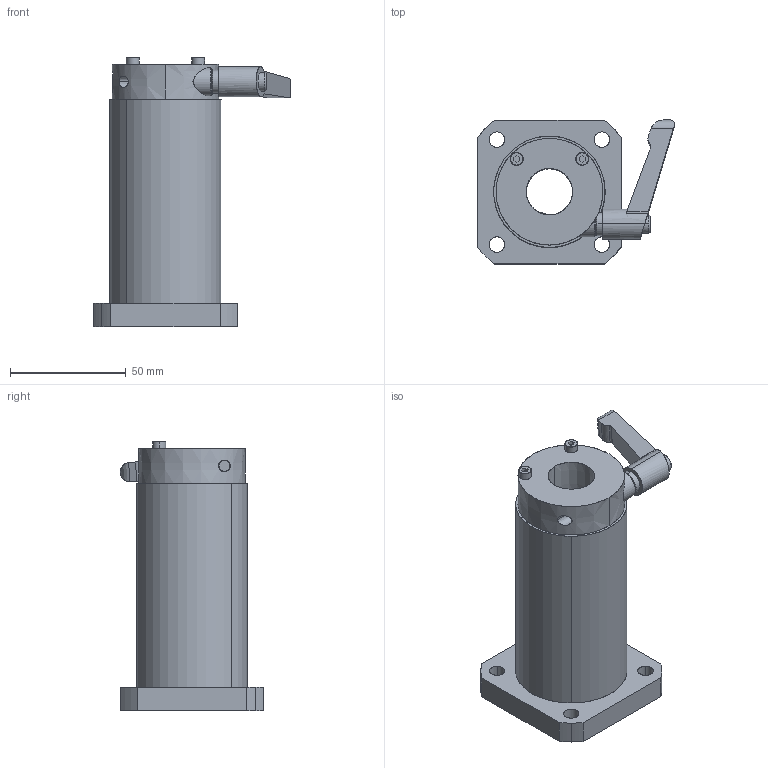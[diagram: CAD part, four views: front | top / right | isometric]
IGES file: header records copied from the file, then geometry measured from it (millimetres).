
Start section: SolidWorks IGES file using analytic representation for surfaces
Global section: file name: C:\Users\yamad\Desktop\IGES\LFWK20-C.IGS; native system: SolidWorks 2019; preprocessor: SolidWorks 2019; author: yamad; date: 230626.163558; units: millimetre
Bounding box: 84.9 x 62 x 116 mm (x, y, z)
Surface area: 43880.6 mm2 (no closed solid volume)
Topology: 0 solids, 0 shells, 196 faces, 4612 edges, 4612 vertices
Faces by surface type: bspline 106, revolution 90
